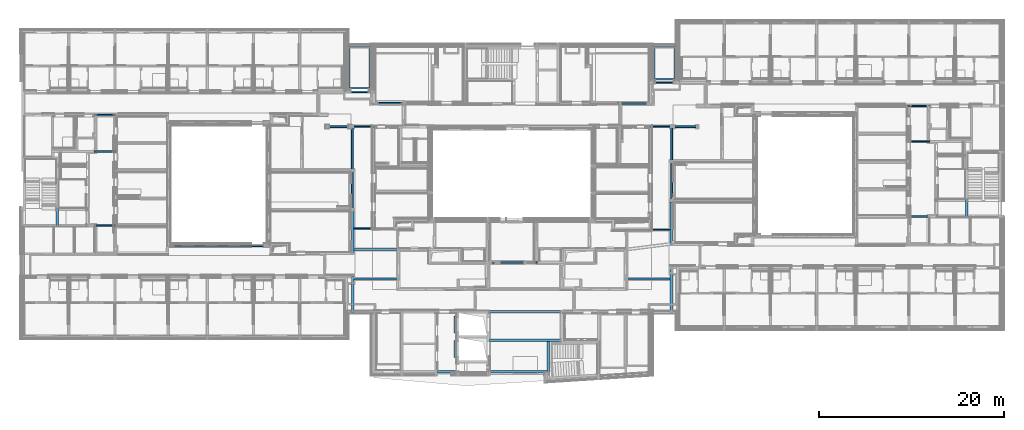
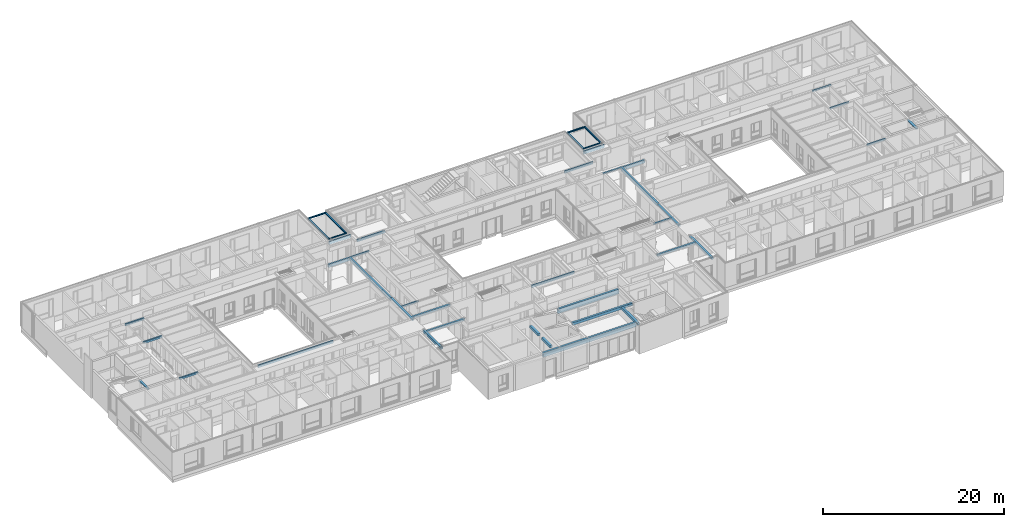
# One storey, part 5 of 207: 48 beams.
"""IFC4 building model written with IfcOpenShell, lengths in metres."""

from ifc_helpers import new_model, entity, si_unit, converted_unit, derived_unit, frame, frame_2d, origin, place, context, subcontext, project, spatial, polyline, rectangle, outline, extrude, faceted_brep, material, element, save


model = new_model("IFC4")

# Units and contexts
model_context = context("Model", 3, precision=1e-05, world=origin())
body_context = subcontext(model_context, "Body", "Model", "MODEL_VIEW")
ifc_project = project(units=[si_unit("LENGTHUNIT", "METRE"), si_unit("AREAUNIT", "SQUARE_METRE"), si_unit("VOLUMEUNIT", "CUBIC_METRE"), si_unit("MASSUNIT", "GRAM", prefix="KILO"), converted_unit("PLANEANGLEUNIT", "DEGREE", entity("IfcPlaneAngleMeasure", 0.0174532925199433), si_unit("PLANEANGLEUNIT", "RADIAN"), dimensions=[0, 0, 0, 0, 0, 0, 0]), derived_unit("THERMALTRANSMITTANCEUNIT", [(si_unit("POWERUNIT", "WATT"), 1), (si_unit("THERMODYNAMICTEMPERATUREUNIT", "KELVIN"), -1), (si_unit("LENGTHUNIT", "METRE"), -2)]), derived_unit("VOLUMETRICFLOWRATEUNIT", [(si_unit("LENGTHUNIT", "METRE"), 3), (converted_unit("TIMEUNIT", "hour", entity("IfcTimeMeasure", 3600.0), si_unit("TIMEUNIT", "SECOND"), dimensions=[0, 0, 1, 0, 0, 0, 0]), -1), (si_unit("LENGTHUNIT", "METRE"), -1)])], contexts=[model_context])

# Site, building, storey
site_placement = place(None, origin())
site = spatial("IfcSite", under=ifc_project, at=site_placement, Name="Psychiatrie Neubau Wunstorf", CompositionType="ELEMENT")
building_placement = place(site_placement, origin())
building = spatial("IfcBuilding", under=site, at=building_placement, Name="Neubau H2 Stationsgebäude", CompositionType="ELEMENT")
storey_placement = place(building_placement, frame((0.0, 0.0, -0.2)))
storey = spatial("IfcBuildingStorey", under=building, at=storey_placement, Name="H2 Ebene 0", CompositionType="ELEMENT", Elevation=-0.2)

# Beams
ifc_material_1 = material(Name="BS Bekleidung")
beam_1_placement = place(storey_placement, frame((16.4468895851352, 7.434, 3.284)))
element("IfcBeam", 1, at=beam_1_placement, inside=storey, material=ifc_material_1, PredefinedType="NOTDEFINED", context=body_context, shape_type="Brep", body=[
    faceted_brep([(0.0, 0.191999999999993, 0.0), (4.45195764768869e-08, 0.0, 0.0), (9.60621895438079, 3.56653070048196e-06, 0.0), (9.60621844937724, 0.192003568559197, 0.0), (4.60483992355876e-07, 0.155999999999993, 0.316), (4.60483992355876e-07, 0.191999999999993, 0.316), (9.60621890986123, 0.192003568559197, 0.316), (9.60621890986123, 0.156003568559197, 0.316), (0.0, 0.155999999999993, 0.036), (4.45195764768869e-08, 0.036, 0.036), (5.05003568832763e-07, 0.036, 0.316), (5.05003568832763e-07, 0.0, 0.316), (9.60621941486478, 3.56653070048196e-06, 0.316), (9.60621941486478, 0.0360035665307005, 0.316), (9.60621895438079, 0.0360035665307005, 0.036), (9.60621844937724, 0.156003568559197, 0.036)], [[[0, 1, 2, 3]], [[4, 5, 6, 7]], [[8, 9, 10, 11, 1, 0, 5, 4]], [[2, 1, 11, 12]], [[7, 6, 3, 2, 12, 13, 14, 15]], [[0, 3, 6, 5]], [[13, 12, 11, 10]], [[14, 9, 8, 15]], [[13, 10, 9, 14]], [[15, 8, 4, 7]]], orient=[[False], [False], [False], [False], [False], [False], [False], [False], [False], [False]]),
])
ifc_material_2 = material(Name="H")
beam_2_placement = place(storey_placement, frame((37.8935, 24.31, 3.2), z_axis=(0.0, 0.0, 1.0), x_axis=(-1.0, 0.0, 0.0)))
element("IfcBeam", 2, at=beam_2_placement, inside=storey, material=ifc_material_2, PredefinedType="NOTDEFINED", context=body_context, shape_type="SweptSolid", body=[
    extrude(rectangle(XDim=0.16, YDim=0.4, at=frame_2d((0.08, 0.2), x_axis=(1.0, 0.0))), frame((0.0, 0.0, 0.0), z_axis=(1.0, 0.0, 0.0), x_axis=(0.0, 1.0, 0.0)), (0.0, 0.0, 1.0), 2.7185),
])
ifc_material_3 = material(Name="H")
beam_3_placement = place(storey_placement, frame((70.825, 25.31, 3.2), z_axis=(0.0, 0.0, 1.0), x_axis=(-1.0, 0.0, 0.0)))
element("IfcBeam", 3, at=beam_3_placement, inside=storey, material=ifc_material_3, PredefinedType="NOTDEFINED", context=body_context, shape_type="SweptSolid", body=[
    extrude(rectangle(XDim=0.16, YDim=0.4, at=frame_2d((0.08, 0.2), x_axis=(1.0, 0.0))), frame((0.0, 0.0, 0.0), z_axis=(1.0, 0.0, 0.0), x_axis=(0.0, 1.0, 0.0)), (0.0, 0.0, 1.0), 2.65),
])
ifc_material_4 = material(Name="H")
beam_4_placement = place(storey_placement, frame((16.4468900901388, 7.47, 3.32), z_axis=(0.0, 0.0, 1.0), x_axis=(0.999999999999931, 3.71484286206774e-07, 0.0)))
element("IfcBeam", 4, at=beam_4_placement, inside=storey, material=ifc_material_4, PredefinedType="NOTDEFINED", context=body_context, shape_type="SweptSolid", body=[
    extrude(rectangle(XDim=0.120000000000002, YDim=0.28, at=frame_2d((0.0600000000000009, 0.14), x_axis=(1.0, 0.0))), frame((0.0, 0.0, 0.0), z_axis=(1.0, 0.0, 0.0), x_axis=(0.0, 1.0, 0.0)), (0.0, 0.0, 1.0), 9.60621844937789),
])
ifc_material_5 = material(Name="HEA140")
beam_5_placement = place(storey_placement, frame((67.9214909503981, 20.416002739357, 3.467)))
element("IfcBeam", 5, at=beam_5_placement, inside=storey, material=ifc_material_5, Name="HEA140", PredefinedType="NOTDEFINED", context=body_context, shape_type="SweptSolid", body=[
    extrude(rectangle(XDim=0.140000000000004, YDim=0.133, at=frame_2d((0.0700000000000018, 0.0665), x_axis=(1.0, 0.0))), frame((0.0, 0.0, 0.0), z_axis=(1.0, 0.0, 0.0), x_axis=(0.0, 1.0, 0.0)), (0.0, 0.0, 1.0), 2.26851515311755),
])
ifc_material_6 = material(Name="HEA240")
beam_6_placement = place(storey_placement, frame((65.2649963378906, 3.83999694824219, 3.37), z_axis=(0.0, 0.0, 1.0), x_axis=(0.999999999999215, -1.25328926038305e-06, 0.0)))
element("IfcBeam", 6, at=beam_6_placement, inside=storey, material=ifc_material_6, Name="HEA240", PredefinedType="NOTDEFINED", context=body_context, shape_type="SweptSolid", body=[
    extrude(rectangle(XDim=0.24, YDim=0.23, at=frame_2d((0.12, 0.115), x_axis=(1.0, 0.0))), frame((0.0, 0.0, 0.0), z_axis=(1.0, 0.0, 0.0), x_axis=(0.0, 1.0, 0.0)), (0.0, 0.0, 1.0), 4.86999868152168),
])
ifc_material_7 = material(Name="HEA240")
beam_7_placement = place(storey_placement, frame((40.7349975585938, 4.07999969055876, 3.37), z_axis=(0.0, 0.0, 1.0), x_axis=(-1.0, 0.0, 0.0)))
element("IfcBeam", 7, at=beam_7_placement, inside=storey, material=ifc_material_7, Name="HEA240", PredefinedType="NOTDEFINED", context=body_context, shape_type="SweptSolid", body=[
    extrude(rectangle(XDim=0.24, YDim=0.23, at=frame_2d((0.12, 0.115), x_axis=(1.0, 0.0))), frame((0.0, 0.0, 0.0), z_axis=(1.0, 0.0, 0.0), x_axis=(0.0, 1.0, 0.0)), (0.0, 0.0, 1.0), 4.87000253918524),
])
ifc_material_8 = material(Name="HEA140")
beam_8_placement = place(storey_placement, frame((67.9099925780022, 9.23499755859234, 3.467), z_axis=(0.0, 0.0, 1.0), x_axis=(0.999999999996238, -2.74314330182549e-06, 0.0)))
element("IfcBeam", 8, at=beam_8_placement, inside=storey, material=ifc_material_8, Name="HEA140", PredefinedType="NOTDEFINED", context=body_context, shape_type="SweptSolid", body=[
    extrude(rectangle(XDim=0.140000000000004, YDim=0.133, at=frame_2d((0.0700000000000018, 0.0665), x_axis=(1.0, 0.0))), frame((0.0, 0.0, 0.0), z_axis=(1.0, 0.0, 0.0), x_axis=(0.0, 1.0, 0.0)), (0.0, 0.0, 1.0), 2.22500742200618),
])
ifc_material_9 = material(Name="HEA240")
beam_9_placement = place(storey_placement, frame((70.3749950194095, 0.339996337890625, 3.37), z_axis=(0.0, 0.0, 1.0), x_axis=(0.0, 1.0, 0.0)))
element("IfcBeam", 9, at=beam_9_placement, inside=storey, material=ifc_material_9, Name="HEA240", PredefinedType="NOTDEFINED", context=body_context, shape_type="SweptSolid", body=[
    extrude(rectangle(XDim=0.24, YDim=0.23, at=frame_2d((0.12, 0.115), x_axis=(1.0, 0.0))), frame((0.0, 0.0, 0.0), z_axis=(1.0, 0.0, 0.0), x_axis=(0.0, 1.0, 0.0)), (0.0, 0.0, 1.0), 4.96750366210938),
])
ifc_material_10 = material(Name="HEA240")
beam_10_placement = place(storey_placement, frame((35.8649950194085, 0.549999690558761, 3.37), z_axis=(0.0, 0.0, 1.0), x_axis=(0.0, 1.0, 0.0)))
element("IfcBeam", 10, at=beam_10_placement, inside=storey, material=ifc_material_10, Name="HEA240", PredefinedType="NOTDEFINED", context=body_context, shape_type="SweptSolid", body=[
    extrude(rectangle(XDim=0.24, YDim=0.23, at=frame_2d((0.12, 0.115), x_axis=(1.0, 0.0))), frame((0.0, 0.0, 0.0), z_axis=(1.0, 0.0, 0.0), x_axis=(0.0, 1.0, 0.0)), (0.0, 0.0, 1.0), 3.7557499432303),
])
ifc_material_11 = material(Name="HEA240")
beam_11_placement = place(storey_placement, frame((40.7349973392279, 7.26650243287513, 3.37), z_axis=(0.0, 0.0, 1.0), x_axis=(-0.999999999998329, -1.82804900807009e-06, 0.0)))
element("IfcBeam", 11, at=beam_11_placement, inside=storey, material=ifc_material_11, Name="HEA240", PredefinedType="NOTDEFINED", context=body_context, shape_type="SweptSolid", body=[
    extrude(rectangle(XDim=0.240000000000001, YDim=0.23, at=frame_2d((0.12, 0.115), x_axis=(1.0, 0.0))), frame((0.0, 0.0, 0.0), z_axis=(1.0, 0.0, 0.0), x_axis=(0.0, 1.0, 0.0)), (0.0, 0.0, 1.0), 4.87000253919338),
])
ifc_material_12 = material(Name="HEA140")
beam_12_placement = place(storey_placement, frame((38.0400005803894, 9.49999432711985, 3.467), z_axis=(0.0, 0.0, 1.0), x_axis=(-1.0, 0.0, 0.0)))
element("IfcBeam", 12, at=beam_12_placement, inside=storey, material=ifc_material_12, Name="HEA140", PredefinedType="NOTDEFINED", context=body_context, shape_type="SweptSolid", body=[
    extrude(rectangle(XDim=0.14, YDim=0.133, at=frame_2d((0.07, 0.0665), x_axis=(1.0, 0.0))), frame((0.0, 0.0, 0.0), z_axis=(1.0, 0.0, 0.0), x_axis=(0.0, 1.0, 0.0)), (0.0, 0.0, 1.0), 2.17500517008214),
])
ifc_material_13 = material(Name="HEA240")
beam_13_placement = place(storey_placement, frame((35.8649950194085, 6.63699856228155, 3.37), z_axis=(0.0, 0.0, 1.0), x_axis=(1.03405643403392e-06, 0.999999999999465, 0.0)))
element("IfcBeam", 13, at=beam_13_placement, inside=storey, material=ifc_material_13, Name="HEA240", PredefinedType="NOTDEFINED", context=body_context, shape_type="SweptSolid", body=[
    extrude(rectangle(XDim=0.24, YDim=0.23, at=frame_2d((0.12, 0.115), x_axis=(1.0, 0.0))), frame((0.0, 0.0, 0.0), z_axis=(1.0, 0.0, 0.0), x_axis=(0.0, 1.0, 0.0)), (0.0, 0.0, 1.0), 4.81655673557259),
])
ifc_material_14 = material(Name="HEA240")
beam_14_placement = place(storey_placement, frame((70.3749950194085, 7.63250347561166, 3.37), z_axis=(0.0, 0.0, 1.0), x_axis=(-7.601591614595e-07, 0.999999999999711, 0.0)))
element("IfcBeam", 14, at=beam_14_placement, inside=storey, material=ifc_material_14, Name="HEA240", PredefinedType="NOTDEFINED", context=body_context, shape_type="SweptSolid", body=[
    extrude(rectangle(XDim=0.23999998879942, YDim=0.23, at=frame_2d((0.11999999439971, 0.115), x_axis=(1.0, 0.0))), frame((0.0, 0.0, 0.0), z_axis=(1.0, 0.0, 0.0), x_axis=(0.0, 1.0, 0.0)), (0.0, 0.0, 1.0), 4.68155603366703),
])
ifc_material_15 = material(Name="HEA140")
beam_15_placement = place(storey_placement, frame((38.0784975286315, 20.555998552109, 3.467), z_axis=(0.0, 0.0, 1.0), x_axis=(-1.0, 0.0, 0.0)))
element("IfcBeam", 15, at=beam_15_placement, inside=storey, material=ifc_material_15, Name="HEA140", PredefinedType="NOTDEFINED", context=body_context, shape_type="SweptSolid", body=[
    extrude(rectangle(XDim=0.14, YDim=0.133, at=frame_2d((0.07, 0.0665), x_axis=(1.0, 0.0))), frame((0.0, 0.0, 0.0), z_axis=(1.0, 0.0, 0.0), x_axis=(0.0, 1.0, 0.0)), (0.0, 0.0, 1.0), 2.26849752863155),
])
ifc_material_16 = material(Name="BS Bekleidung")
beam_16_placement = place(storey_placement, frame((35.5889950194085, 0.3399963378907, 3.334)))
element("IfcBeam", 16, at=beam_16_placement, inside=storey, material=ifc_material_16, PredefinedType="NOTDEFINED", context=body_context, shape_type="Brep", body=[
    faceted_brep([(0.0, 0.0, 0.0), (0.312000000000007, 0.0, 0.0), (0.312000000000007, 3.95500366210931, 0.0), (0.0, 3.95500366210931, 0.0), (0.036, 0.0, 0.266), (0.0, 0.0, 0.266), (0.0, 3.95500366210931, 0.266), (0.036, 3.95500366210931, 0.266), (0.036, 0.0, 0.036), (0.276000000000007, 0.0, 0.036), (0.276000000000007, 0.0, 0.266), (0.312000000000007, 0.0, 0.266), (0.312000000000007, 3.95500366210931, 0.266), (0.276000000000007, 3.95500366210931, 0.266), (0.276000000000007, 3.95500366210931, 0.036), (0.036, 3.95500366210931, 0.036)], [[[0, 1, 2, 3]], [[4, 5, 6, 7]], [[8, 9, 10, 11, 1, 0, 5, 4]], [[2, 1, 11, 12]], [[7, 6, 3, 2, 12, 13, 14, 15]], [[0, 3, 6, 5]], [[13, 12, 11, 10]], [[14, 9, 8, 15]], [[13, 10, 9, 14]], [[15, 8, 4, 7]]], orient=[[False], [False], [False], [False], [False], [False], [False], [False], [False], [False]]),
])
ifc_material_17 = material(Name="BS Bekleidung")
beam_17_placement = place(storey_placement, frame((7.84350410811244, 17.6540126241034, 3.364)))
element("IfcBeam", 17, at=beam_17_placement, inside=storey, material=ifc_material_17, PredefinedType="NOTDEFINED", context=body_context, shape_type="Brep", body=[
    faceted_brep([(0.0, 0.232000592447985, 0.0), (0.0, 5.92447984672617e-07, 0.0), (2.28149164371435, 0.0, 0.0), (2.28149164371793, 0.232, 0.0), (0.0, 0.196000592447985, 0.236), (0.0, 0.232000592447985, 0.236), (2.28149164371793, 0.232, 0.236), (2.28149164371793, 0.196, 0.236), (0.0, 0.196000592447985, 0.036), (0.0, 0.0360005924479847, 0.036), (0.0, 0.0360005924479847, 0.236), (0.0, 5.92447984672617e-07, 0.236), (2.28149164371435, 0.0, 0.236), (2.28149164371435, 0.036, 0.236), (2.28149164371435, 0.036, 0.036), (2.28149164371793, 0.196, 0.036)], [[[0, 1, 2, 3]], [[4, 5, 6, 7]], [[8, 9, 10, 11, 1, 0, 5, 4]], [[2, 1, 11, 12]], [[7, 6, 3, 2, 12, 13, 14, 15]], [[0, 3, 6, 5]], [[13, 12, 11, 10]], [[14, 9, 8, 15]], [[13, 10, 9, 14]], [[15, 8, 4, 7]]], orient=[[False], [False], [False], [False], [False], [False], [False], [False], [False], [False]]),
])
ifc_material_18 = material(Name="BS Bekleidung")
beam_18_placement = place(storey_placement, frame((7.72498964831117, 21.6039984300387, 3.364)))
element("IfcBeam", 18, at=beam_18_placement, inside=storey, material=ifc_material_18, PredefinedType="NOTDEFINED", context=body_context, shape_type="Brep", body=[
    faceted_brep([(0.0, 0.232000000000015, 0.0), (0.0, 0.0, 0.0), (2.40000604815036, 0.0, 0.0), (2.40000604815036, 0.231999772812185, 0.0), (0.0, 0.196000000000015, 0.236), (0.0, 0.232000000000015, 0.236), (2.40000604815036, 0.231999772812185, 0.236), (2.40000604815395, 0.196000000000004, 0.236), (0.0, 0.196000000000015, 0.036), (0.0, 0.0360000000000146, 0.036), (0.0, 0.0360000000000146, 0.236), (0.0, 0.0, 0.236), (2.40000604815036, 0.0, 0.236), (2.40000604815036, 0.0360000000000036, 0.236), (2.40000604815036, 0.0360000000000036, 0.036), (2.40000604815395, 0.196000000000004, 0.036)], [[[0, 1, 2, 3]], [[4, 5, 6, 7]], [[8, 9, 10, 11, 1, 0, 5, 4]], [[2, 1, 11, 12]], [[7, 6, 3, 2, 12, 13, 14, 15]], [[0, 3, 6, 5]], [[13, 12, 11, 10]], [[14, 9, 8, 15]], [[13, 10, 9, 14]], [[15, 8, 4, 7]]], orient=[[False], [False], [False], [False], [False], [False], [False], [False], [False], [False]]),
])
ifc_material_19 = material(Name="BS Bekleidung")
beam_19_placement = place(storey_placement, frame((7.72498889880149, 9.64999940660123, 3.364)))
element("IfcBeam", 19, at=beam_19_placement, inside=storey, material=ifc_material_19, PredefinedType="NOTDEFINED", context=body_context, shape_type="Brep", body=[
    faceted_brep([(1.10841071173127e-05, 0.225000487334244, 0.0), (0.0, 0.0, 0.0), (2.40000687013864, 0.0, 0.0), (2.40000687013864, 0.232, 0.0), (0.0, 0.196, 0.236), (1.10841071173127e-05, 0.225000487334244, 0.236), (2.40000687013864, 0.232, 0.236), (2.40000687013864, 0.196, 0.236), (0.0, 0.196, 0.036), (0.0, 0.036, 0.036), (0.0, 0.036, 0.236), (0.0, 0.0, 0.236), (2.40000687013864, 0.0, 0.236), (2.40000687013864, 0.036, 0.236), (2.40000687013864, 0.036, 0.036), (2.40000687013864, 0.196, 0.036)], [[[0, 1, 2, 3]], [[4, 5, 6, 7]], [[8, 9, 10, 11, 1, 0, 5, 4]], [[2, 1, 11, 12]], [[7, 6, 3, 2, 12, 13, 14, 15]], [[0, 3, 6, 5]], [[13, 12, 11, 10]], [[14, 9, 8, 15]], [[13, 10, 9, 14]], [[15, 8, 4, 7]]], orient=[[False], [False], [False], [False], [False], [False], [False], [False], [False], [False]]),
])
ifc_material_20 = material(Name="H")
beam_20_placement = place(storey_placement, frame((95.8864937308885, 22.6399990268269, 3.4)))
element("IfcBeam", 20, at=beam_20_placement, inside=storey, material=ifc_material_20, PredefinedType="NOTDEFINED", context=body_context, shape_type="SweptSolid", body=[
    extrude(rectangle(XDim=0.16, YDim=0.2, at=frame_2d((0.08, 0.1), x_axis=(1.0, 0.0))), frame((0.0, 0.0, 0.0), z_axis=(1.0, 0.0, 0.0), x_axis=(0.0, 1.0, 0.0)), (0.0, 0.0, 1.0), 2.38850128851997),
])
ifc_material_21 = material(Name="H")
beam_21_placement = place(storey_placement, frame((38.004996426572, 22.9189991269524, 3.3), z_axis=(0.0, 0.0, 1.0), x_axis=(0.999999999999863, -5.23530813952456e-07, 0.0)))
element("IfcBeam", 21, at=beam_21_placement, inside=storey, material=ifc_material_21, PredefinedType="NOTDEFINED", context=body_context, shape_type="SweptSolid", body=[
    extrude(rectangle(XDim=0.179999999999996, YDim=0.3, at=frame_2d((0.0899999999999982, 0.15), x_axis=(1.0, 0.0))), frame((0.0, 0.0, 0.0), z_axis=(1.0, 0.0, 0.0), x_axis=(0.0, 1.0, 0.0)), (0.0, 0.0, 1.0), 3.60050285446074),
])
ifc_material_22 = material(Name="H")
beam_22_placement = place(storey_placement, frame((7.72498964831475, 17.6900126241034, 3.4), z_axis=(0.0, 0.0, 1.0), x_axis=(1.0, -1.51582064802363e-15, 0.0)))
element("IfcBeam", 22, at=beam_22_placement, inside=storey, material=ifc_material_22, PredefinedType="NOTDEFINED", context=body_context, shape_type="SweptSolid", body=[
    extrude(rectangle(XDim=0.160000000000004, YDim=0.2, at=frame_2d((0.0800000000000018, 0.1), x_axis=(1.0, 0.0))), frame((0.0, 0.0, 0.0), z_axis=(1.0, 0.0, 0.0), x_axis=(0.0, 1.0, 0.0)), (0.0, 0.0, 1.0), 2.40000610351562),
])
ifc_material_23 = material(Name="H")
beam_23_placement = place(storey_placement, frame((7.72498889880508, 9.68599940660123, 3.4)))
element("IfcBeam", 23, at=beam_23_placement, inside=storey, material=ifc_material_23, PredefinedType="NOTDEFINED", context=body_context, shape_type="SweptSolid", body=[
    extrude(rectangle(XDim=0.160000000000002, YDim=0.2, at=frame_2d((0.0800000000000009, 0.1), x_axis=(1.0, 0.0))), frame((0.0, 0.0, 0.0), z_axis=(1.0, 0.0, 0.0), x_axis=(0.0, 1.0, 0.0)), (0.0, 0.0, 1.0), 2.4000068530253),
])
ifc_material_24 = material(Name="H")
beam_24_placement = place(storey_placement, frame((70.4000061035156, 12.4500595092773, 3.2), z_axis=(0.0, 0.0, 1.0), x_axis=(0.0, 1.0, 0.0)))
element("IfcBeam", 24, at=beam_24_placement, inside=storey, material=ifc_material_24, PredefinedType="NOTDEFINED", context=body_context, shape_type="SweptSolid", body=[
    extrude(rectangle(XDim=0.2, YDim=0.4, at=frame_2d((0.1, 0.2), x_axis=(1.0, 0.0))), frame((0.0, 0.0, 0.0), z_axis=(1.0, 0.0, 0.0), x_axis=(0.0, 1.0, 0.0)), (0.0, 0.0, 1.0), 8.12494049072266),
])
ifc_material_25 = material(Name="H")
beam_25_placement = place(storey_placement, frame((35.8, 11.4535575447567, 3.2), z_axis=(0.0, 0.0, 1.0), x_axis=(0.0, 1.0, 0.0)))
element("IfcBeam", 25, at=beam_25_placement, inside=storey, material=ifc_material_25, PredefinedType="NOTDEFINED", context=body_context, shape_type="SweptSolid", body=[
    extrude(rectangle(XDim=0.2, YDim=0.4, at=frame_2d((0.1, 0.2), x_axis=(1.0, 0.0))), frame((0.0, 0.0, 0.0), z_axis=(1.0, 0.0, 0.0), x_axis=(0.0, 1.0, 0.0)), (0.0, 0.0, 1.0), 9.12144245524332),
])
ifc_material_26 = material(Name="H")
beam_26_placement = place(storey_placement, frame((35.564, 20.5559973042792, 3.2), z_axis=(0.0, 0.0, 1.0), x_axis=(-1.0, 0.0, 0.0)))
element("IfcBeam", 26, at=beam_26_placement, inside=storey, material=ifc_material_26, PredefinedType="NOTDEFINED", context=body_context, shape_type="SweptSolid", body=[
    extrude(rectangle(XDim=0.2, YDim=0.4, at=frame_2d((0.1, 0.2), x_axis=(1.0, 0.0))), frame((0.0, 0.0, 0.0), z_axis=(1.0, 0.0, 0.0), x_axis=(0.0, 1.0, 0.0)), (0.0, 0.0, 1.0), 2.68100439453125),
])
ifc_material_27 = material(Name="H")
beam_27_placement = place(storey_placement, frame((73.1719970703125, 20.555998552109, 3.2), z_axis=(0.0, 0.0, 1.0), x_axis=(-1.0, 0.0, 0.0)))
element("IfcBeam", 27, at=beam_27_placement, inside=storey, material=ifc_material_27, PredefinedType="NOTDEFINED", context=body_context, shape_type="SweptSolid", body=[
    extrude(rectangle(XDim=0.2, YDim=0.4, at=frame_2d((0.1, 0.2), x_axis=(1.0, 0.0))), frame((0.0, 0.0, 0.0), z_axis=(1.0, 0.0, 0.0), x_axis=(0.0, 1.0, 0.0)), (0.0, 0.0, 1.0), 2.74199706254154),
])
ifc_material_28 = material(Name="H")
beam_28_placement = place(storey_placement, frame((50.2855000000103, 5.65349969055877, 3.3)))
element("IfcBeam", 28, at=beam_28_placement, inside=storey, material=ifc_material_28, PredefinedType="NOTDEFINED", context=body_context, shape_type="SweptSolid", body=[
    extrude(rectangle(XDim=0.16, YDim=0.3, at=frame_2d((0.08, 0.15), x_axis=(1.0, 0.0))), frame((0.0, 0.0, 0.0), z_axis=(1.0, 0.0, 0.0), x_axis=(0.0, 1.0, 0.0)), (0.0, 0.0, 1.0), 5.44699980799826),
])
ifc_material_29 = material(Name="H")
beam_29_placement = place(storey_placement, frame((7.72498964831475, 21.6399984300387, 3.4), z_axis=(0.0, 0.0, 1.0), x_axis=(1.0, -4.54746204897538e-15, 0.0)))
element("IfcBeam", 29, at=beam_29_placement, inside=storey, material=ifc_material_29, PredefinedType="NOTDEFINED", context=body_context, shape_type="SweptSolid", body=[
    extrude(rectangle(XDim=0.16, YDim=0.2, at=frame_2d((0.08, 0.1), x_axis=(1.0, 0.0))), frame((0.0, 0.0, 0.0), z_axis=(1.0, 0.0, 0.0), x_axis=(0.0, 1.0, 0.0)), (0.0, 0.0, 1.0), 2.40000604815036),
])
ifc_material_30 = material(Name="H")
beam_30_placement = place(storey_placement, frame((95.8864937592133, 18.7900040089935, 3.4), z_axis=(0.0, 0.0, 1.0), x_axis=(0.999999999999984, 1.77029680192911e-07, 0.0)))
element("IfcBeam", 30, at=beam_30_placement, inside=storey, material=ifc_material_30, PredefinedType="NOTDEFINED", context=body_context, shape_type="SweptSolid", body=[
    extrude(rectangle(XDim=0.16, YDim=0.2, at=frame_2d((0.08, 0.1), x_axis=(1.0, 0.0))), frame((0.0, 0.0, 0.0), z_axis=(1.0, 0.0, 0.0), x_axis=(0.0, 1.0, 0.0)), (0.0, 0.0, 1.0), 2.38850128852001),
])
ifc_material_31 = material(Name="H")
beam_31_placement = place(storey_placement, frame((68.0530000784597, 23.0599967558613, 3.3), z_axis=(0.0, 0.0, 1.0), x_axis=(-0.999999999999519, 9.80746515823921e-07, 0.0)))
element("IfcBeam", 31, at=beam_31_placement, inside=storey, material=ifc_material_31, PredefinedType="NOTDEFINED", context=body_context, shape_type="SweptSolid", body=[
    extrude(rectangle(XDim=0.159999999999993, YDim=0.3, at=frame_2d((0.0799999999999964, 0.15), x_axis=(1.0, 0.0))), frame((0.0, 0.0, 0.0), z_axis=(1.0, 0.0, 0.0), x_axis=(0.0, 1.0, 0.0)), (0.0, 0.0, 1.0), 3.64050000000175),
])
ifc_material_32 = material(Name="H")
beam_32_placement = place(storey_placement, frame((95.8864937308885, 10.6464984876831, 3.4)))
element("IfcBeam", 32, at=beam_32_placement, inside=storey, material=ifc_material_32, PredefinedType="NOTDEFINED", context=body_context, shape_type="SweptSolid", body=[
    extrude(rectangle(XDim=0.16, YDim=0.2, at=frame_2d((0.08, 0.1), x_axis=(1.0, 0.0))), frame((0.0, 0.0, 0.0), z_axis=(1.0, 0.0, 0.0), x_axis=(0.0, 1.0, 0.0)), (0.0, 0.0, 1.0), 2.38850128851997),
])
ifc_material_33 = material(Name="STB")
beam_33_placement = place(storey_placement, frame((102.12, 12.6249998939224, 3.45), z_axis=(0.0, 0.0, 1.0), x_axis=(0.0, -1.0, 0.0)))
element("IfcBeam", 33, at=beam_33_placement, inside=storey, material=ifc_material_33, PredefinedType="NOTDEFINED", context=body_context, shape_type="SweptSolid", body=[
    extrude(rectangle(XDim=0.25, YDim=0.15, at=frame_2d((0.125, 0.075), x_axis=(1.0, 0.0))), frame((0.0, 0.0, 0.0), z_axis=(1.0, 0.0, 0.0), x_axis=(0.0, 1.0, 0.0)), (0.0, 0.0, 1.0), 2.0),
])
ifc_material_34 = material(Name="STB")
beam_34_placement = place(storey_placement, frame((57.0433838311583, -6.38704470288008, 3.25), z_axis=(0.0, 0.0, 1.0), x_axis=(0.0, 1.0, 0.0)))
element("IfcBeam", 34, at=beam_34_placement, inside=storey, material=ifc_material_34, PredefinedType="NOTDEFINED", context=body_context, shape_type="SweptSolid", body=[
    extrude(rectangle(XDim=0.25, YDim=0.35, at=frame_2d((0.125, 0.175), x_axis=(1.0, 0.0))), frame((0.0, 0.0, 0.0), z_axis=(1.0, 0.0, 0.0), x_axis=(0.0, 1.0, 0.0)), (0.0, 0.0, 1.0), 3.5770566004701),
])
ifc_material_35 = material(Name="STB")
beam_35_placement = place(storey_placement, frame((44.9160048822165, -6.19500030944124, 3.0)))
element("IfcBeam", 35, at=beam_35_placement, inside=storey, material=ifc_material_35, PredefinedType="NOTDEFINED", context=body_context, shape_type="SweptSolid", body=[
    extrude(rectangle(XDim=0.25, YDim=0.6, at=frame_2d((0.125, 0.3), x_axis=(1.0, 0.0))), frame((0.0, 0.0, 0.0), z_axis=(1.0, 0.0, 0.0), x_axis=(0.0, 1.0, 0.0)), (0.0, 0.0, 1.0), 11.8773789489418),
])
for number, where, z_axis, x_axis, name in (
    (36, (46.7200048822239, -0.067352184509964, 2.62), (0.0, 0.0, 1.0), (0.0, -1.0, 0.0), "FS-Vorhang"),
    (37, (46.7200048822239, -2.68998810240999, 2.62), (0.0, 0.0, 1.0), (0.0, -1.0, 0.0), "FS-Vorhang"),
):
    element("IfcBeam", number, at=place(storey_placement, frame(where, z_axis=z_axis, x_axis=x_axis)), inside=storey, Name=name, PredefinedType="NOTDEFINED", context=body_context, shape_type="SweptSolid", body=[
        extrude(rectangle(XDim=0.3, YDim=0.325, at=frame_2d((0.15, 0.1625), x_axis=(1.0, 0.0))), frame((0.0, 0.0, 0.0), z_axis=(1.0, 0.0, 0.0), x_axis=(0.0, 1.0, 0.0)), (0.0, 0.0, 1.0), 1.84),
    ])
ifc_material_36 = material(Name="STB")
beam_36_placement = place(storey_placement, frame((50.5500000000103, 0.275012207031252, 2.97), z_axis=(0.0, 0.0, 1.0), x_axis=(1.0, -2.50087505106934e-16, 0.0)))
element("IfcBeam", 38, at=beam_36_placement, inside=storey, material=ifc_material_36, PredefinedType="NOTDEFINED", context=body_context, shape_type="SweptSolid", body=[
    extrude(rectangle(XDim=0.25, YDim=0.63, at=frame_2d((0.125, 0.315), x_axis=(1.0, 0.0))), frame((0.0, 0.0, 0.0), z_axis=(1.0, 0.0, 0.0), x_axis=(0.0, 1.0, 0.0)), (0.0, 0.0, 1.0), 7.72800000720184),
])
ifc_material_37 = material(Name="STB")
beam_37_placement = place(storey_placement, frame((50.5799996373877, -2.80998810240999, 3.25)))
element("IfcBeam", 39, at=beam_37_placement, inside=storey, material=ifc_material_37, PredefinedType="NOTDEFINED", context=body_context, shape_type="SweptSolid", body=[
    extrude(rectangle(XDim=0.25, YDim=0.35, at=frame_2d((0.125, 0.175), x_axis=(1.0, 0.0))), frame((0.0, 0.0, 0.0), z_axis=(1.0, 0.0, 0.0), x_axis=(0.0, 1.0, 0.0)), (0.0, 0.0, 1.0), 7.69800036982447),
])
ifc_material_38 = material(Name="STB")
beam_38_placement = place(storey_placement, frame((3.88, 9.62499989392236, 3.45), z_axis=(0.0, 0.0, 1.0), x_axis=(0.0, 1.0, 0.0)))
element("IfcBeam", 40, at=beam_38_placement, inside=storey, material=ifc_material_38, PredefinedType="NOTDEFINED", context=body_context, shape_type="SweptSolid", body=[
    extrude(rectangle(XDim=0.25, YDim=0.15, at=frame_2d((0.125, 0.075), x_axis=(1.0, 0.0))), frame((0.0, 0.0, 0.0), z_axis=(1.0, 0.0, 0.0), x_axis=(0.0, 1.0, 0.0)), (0.0, 0.0, 1.0), 2.0),
])
ifc_material_39 = material(Name="SB-TRAEGER")
beam_39_placement = place(storey_placement, frame((68.3173957, 29.1036607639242, 3.52), z_axis=(0.0, 0.0, 1.0), x_axis=(0.0, -1.0, 0.0)))
element("IfcBeam", 41, at=beam_39_placement, inside=storey, material=ifc_material_39, Name="HEA160", PredefinedType="NOTDEFINED", context=body_context, shape_type="SweptSolid", body=[
    extrude(outline(polyline([(0.152, 0.0), (0.152, 0.16), (0.143, 0.16), (0.143, 0.083), (0.00899999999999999, 0.083), (0.00899999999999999, 0.16), (0.0, 0.16), (0.0, 0.0), (0.00899999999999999, 0.0), (0.00899999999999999, 0.077), (0.143, 0.077), (0.143, 0.0), (0.152, 0.0)])), frame((0.0, 0.16, 0.0), z_axis=(1.0, 0.0, 0.0), x_axis=(0.0, 0.0, 1.0)), (0.0, 0.0, 1.0), 3.56046040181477),
])
ifc_material_40 = material(Name="SB-TRAEGER")
beam_40_placement = place(storey_placement, frame((35.2995935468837, 29.1049998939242, 3.52), z_axis=(0.0, 0.0, 1.0), x_axis=(1.65295046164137e-15, -1.0, 0.0)))
element("IfcBeam", 42, at=beam_40_placement, inside=storey, material=ifc_material_40, Name="HEA160", PredefinedType="NOTDEFINED", context=body_context, shape_type="SweptSolid", body=[
    extrude(outline(polyline([(0.152, 0.0), (0.152, 0.16), (0.143, 0.16), (0.143, 0.083), (0.00899999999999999, 0.083), (0.00899999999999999, 0.16), (0.0, 0.16), (0.0, 0.0), (0.00899999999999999, 0.0), (0.00899999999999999, 0.077), (0.143, 0.077), (0.143, 0.0), (0.152, 0.0)])), frame((0.0, 0.16, 0.0), z_axis=(1.0, 0.0, 0.0), x_axis=(0.0, 0.0, 1.0)), (0.0, 0.0, 1.0), 4.40180016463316),
])
ifc_material_41 = material(Name="SB-TRAEGER")
beam_41_placement = place(storey_placement, frame((37.6591043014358, 29.2649998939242, 3.52), z_axis=(0.0, 0.0, 1.0), x_axis=(-1.0, 0.0, 0.0)))
element("IfcBeam", 43, at=beam_41_placement, inside=storey, material=ifc_material_41, Name="HEA160", PredefinedType="NOTDEFINED", context=body_context, shape_type="SweptSolid", body=[
    extrude(outline(polyline([(0.152, 0.0), (0.152, 0.16), (0.143, 0.16), (0.143, 0.083), (0.00899999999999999, 0.083), (0.00899999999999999, 0.16), (0.0, 0.16), (0.0, 0.0), (0.00899999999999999, 0.0), (0.00899999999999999, 0.077), (0.143, 0.077), (0.143, 0.0), (0.152, 0.0)])), frame((0.0, 0.16, 0.0), z_axis=(1.0, 0.0, 0.0), x_axis=(0.0, 0.0, 1.0)), (0.0, 0.0, 1.0), 2.3595107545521),
])
ifc_material_42 = material(Name="SB-TRAEGER")
beam_42_placement = place(storey_placement, frame((37.6591043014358, 24.703199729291, 3.52), z_axis=(0.0, 0.0, 1.0), x_axis=(0.0, 1.0, 0.0)))
element("IfcBeam", 44, at=beam_42_placement, inside=storey, material=ifc_material_42, Name="HEA160", PredefinedType="NOTDEFINED", context=body_context, shape_type="SweptSolid", body=[
    extrude(outline(polyline([(0.152, 0.0), (0.152, 0.16), (0.143, 0.16), (0.143, 0.083), (0.00899999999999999, 0.083), (0.00899999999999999, 0.16), (0.0, 0.16), (0.0, 0.0), (0.00899999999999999, 0.0), (0.00899999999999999, 0.077), (0.143, 0.077), (0.143, 0.0), (0.152, 0.0)])), frame((0.0, 0.16, 0.0), z_axis=(1.0, 0.0, 0.0), x_axis=(0.0, 0.0, 1.0)), (0.0, 0.0, 1.0), 4.40180016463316),
])
ifc_material_43 = material(Name="SB-TRAEGER")
beam_43_placement = place(storey_placement, frame((35.2995935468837, 24.543199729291, 3.52)))
element("IfcBeam", 45, at=beam_43_placement, inside=storey, material=ifc_material_43, Name="HEA160", PredefinedType="NOTDEFINED", context=body_context, shape_type="SweptSolid", body=[
    extrude(outline(polyline([(0.152, 0.0), (0.152, 0.16), (0.143, 0.16), (0.143, 0.083), (0.00899999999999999, 0.083), (0.00899999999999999, 0.16), (0.0, 0.16), (0.0, 0.0), (0.00899999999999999, 0.0), (0.00899999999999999, 0.077), (0.143, 0.077), (0.143, 0.0), (0.152, 0.0)])), frame((0.0, 0.16, 0.0), z_axis=(1.0, 0.0, 0.0), x_axis=(0.0, 0.0, 1.0)), (0.0, 0.0, 1.0), 2.3595107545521),
])
ifc_material_44 = material(Name="SB-TRAEGER")
beam_44_placement = place(storey_placement, frame((70.70040645, 29.2636607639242, 3.52), z_axis=(0.0, 0.0, 1.0), x_axis=(-1.0, 0.0, 0.0)))
element("IfcBeam", 46, at=beam_44_placement, inside=storey, material=ifc_material_44, Name="HEA160", PredefinedType="NOTDEFINED", context=body_context, shape_type="SweptSolid", body=[
    extrude(outline(polyline([(0.152, 0.0), (0.152, 0.16), (0.143, 0.16), (0.143, 0.083), (0.00899999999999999, 0.083), (0.00899999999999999, 0.16), (0.0, 0.16), (0.0, 0.0), (0.00899999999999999, 0.0), (0.00899999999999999, 0.077), (0.143, 0.077), (0.143, 0.0), (0.152, 0.0)])), frame((0.0, 0.16, 0.0), z_axis=(1.0, 0.0, 0.0), x_axis=(0.0, 0.0, 1.0)), (0.0, 0.0, 1.0), 2.38301075),
])
ifc_material_45 = material(Name="SB-TRAEGER")
beam_45_placement = place(storey_placement, frame((70.70040645, 25.5432003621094, 3.52), z_axis=(0.0, 0.0, 1.0), x_axis=(0.0, 1.0, 0.0)))
element("IfcBeam", 47, at=beam_45_placement, inside=storey, material=ifc_material_45, Name="HEA160", PredefinedType="NOTDEFINED", context=body_context, shape_type="SweptSolid", body=[
    extrude(outline(polyline([(0.152, 0.0), (0.152, 0.16), (0.143, 0.16), (0.143, 0.083), (0.00899999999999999, 0.083), (0.00899999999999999, 0.16), (0.0, 0.16), (0.0, 0.0), (0.00899999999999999, 0.0), (0.00899999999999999, 0.077), (0.143, 0.077), (0.143, 0.0), (0.152, 0.0)])), frame((0.0, 0.16, 0.0), z_axis=(1.0, 0.0, 0.0), x_axis=(0.0, 0.0, 1.0)), (0.0, 0.0, 1.0), 3.56046040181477),
])
ifc_material_46 = material(Name="SB-TRAEGER")
beam_46_placement = place(storey_placement, frame((68.4773957, 25.5432003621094, 3.52)))
element("IfcBeam", 48, at=beam_46_placement, inside=storey, material=ifc_material_46, Name="HEA160", PredefinedType="NOTDEFINED", context=body_context, shape_type="SweptSolid", body=[
    extrude(outline(polyline([(0.152, 0.0), (0.152, 0.16), (0.143, 0.16), (0.143, 0.083), (0.00899999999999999, 0.083), (0.00899999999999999, 0.16), (0.0, 0.16), (0.0, 0.0), (0.00899999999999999, 0.0), (0.00899999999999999, 0.077), (0.143, 0.077), (0.143, 0.0), (0.152, 0.0)])), frame((0.0, 0.16, 0.0), z_axis=(1.0, 0.0, 0.0), x_axis=(0.0, 0.0, 1.0)), (0.0, 0.0, 1.0), 2.06301075),
])

save(model, "model.ifc")
